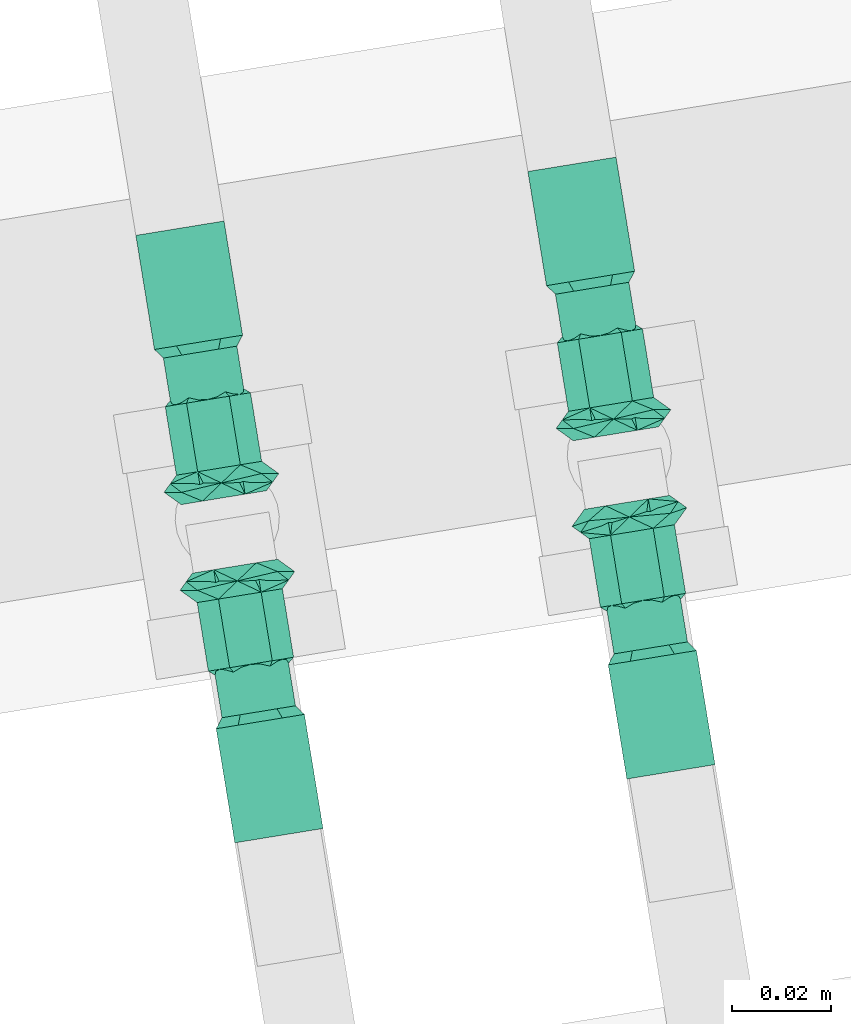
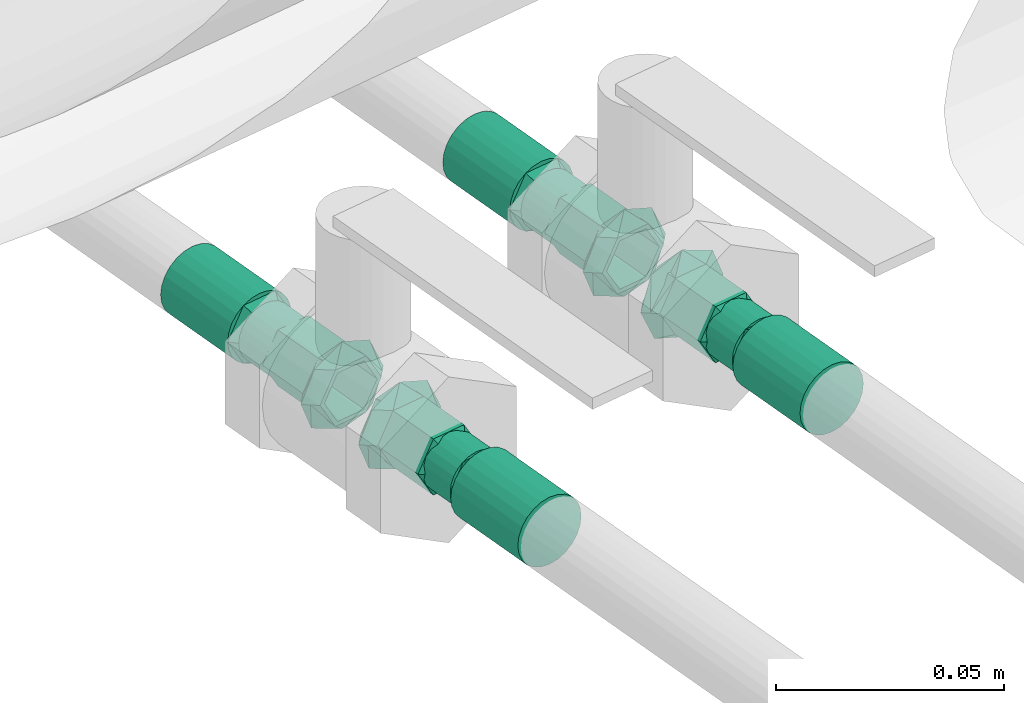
# One storey, part 49 of 56: 4 flow fittings.
"""IFC2X3 building model written with IfcOpenShell, lengths in millimetres."""

from ifc_helpers import new_model, entity, si_unit, converted_unit, derived_unit, direction, frame, origin, origin_with_axes, place, context, subcontext, project, spatial, faceted_brep, source, transform, mapped, material, material_list, type_object, element, save


model = new_model("IFC2X3")

# Units and contexts
model_context = context("Model", 3, precision=0.01, world=origin(), true_north=direction((6.12323399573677e-17, 1.0)))
plan_context = context("Plan", 3, precision=1e-05, world=origin_with_axes())
body_context = subcontext(model_context, "Body", "Model", "MODEL_VIEW")
ifc_project = project(units=[converted_unit("PLANEANGLEUNIT", "DEGREE", entity("IfcPositiveLengthMeasure", 0.0174532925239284), si_unit("PLANEANGLEUNIT", "RADIAN"), dimensions=[0, 0, 0, 0, 0, 0, 0]), si_unit("AREAUNIT", "SQUARE_METRE"), si_unit("LENGTHUNIT", "METRE", prefix="MILLI"), si_unit("MASSUNIT", "GRAM", prefix="KILO"), si_unit("POWERUNIT", "WATT"), si_unit("PRESSUREUNIT", "PASCAL", prefix="KILO"), si_unit("FORCEUNIT", "NEWTON", prefix="KILO"), si_unit("ELECTRICVOLTAGEUNIT", "VOLT"), si_unit("ELECTRICCURRENTUNIT", "AMPERE"), si_unit("THERMODYNAMICTEMPERATUREUNIT", "DEGREE_CELSIUS"), si_unit("TIMEUNIT", "SECOND"), si_unit("VOLUMEUNIT", "CUBIC_METRE"), derived_unit("LINEARVELOCITYUNIT", [(si_unit("LENGTHUNIT", "METRE"), 1), (si_unit("TIMEUNIT", "SECOND"), -1)]), derived_unit("VOLUMETRICFLOWRATEUNIT", [(si_unit("VOLUMEUNIT", "CUBIC_METRE"), 1), (si_unit("TIMEUNIT", "SECOND"), -1)]), derived_unit("THERMALTRANSMITTANCEUNIT", [(si_unit("POWERUNIT", "WATT"), 1), (si_unit("THERMODYNAMICTEMPERATUREUNIT", "KELVIN"), -1), (si_unit("AREAUNIT", "SQUARE_METRE"), -1)]), derived_unit("SOUNDPRESSUREUNIT", [(si_unit("PRESSUREUNIT", "PASCAL"), 1)])], contexts=[model_context, plan_context])

# Site, building, storey
site_placement = place(None, frame((-3.09682673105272e-06, 1.93776733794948e-05, 0.0), z_axis=(0.0, 0.0, 1.0), x_axis=(-0.160806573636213, 0.986985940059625, 0.0)))
site = spatial("IfcSite", under=ifc_project, at=site_placement, Name="Default", CompositionType="ELEMENT")
building_placement = place(site_placement, frame((0.0, 0.0, 0.0), z_axis=(0.0, 0.0, 1.0), x_axis=(1.0, -2.77555756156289e-17, 0.0)))
building = spatial("IfcBuilding", under=site, at=building_placement, Name="Bygning (endres i Project Information)", CompositionType="ELEMENT")
storey_placement = place(building_placement, frame((0.0, 0.0, 51360.0000000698), z_axis=(0.0, 0.0, 1.0), x_axis=(1.0, -2.77555756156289e-17, 0.0)))
storey = spatial("IfcBuildingStorey", under=building, at=storey_placement, Name="H01-Nivå D+0,36", CompositionType="ELEMENT", Elevation=51360.0000000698)

# Flow fittings
ifc_material_1 = material(Name="Geberit_Plastic_Red")
ifc_material_2 = material(Name="Geberit_Mapress_C-Steel")
ifc_material_list = material_list([ifc_material_1, ifc_material_2])
pipe_fitting_type_1 = type_object("IfcPipeFittingType", Name="PRO_103183:DN10-100 / d12-108 - OD", PredefinedType="TRANSITION", material=ifc_material_list)
shared_shape_1 = source(origin(), body_context, "Body", "Brep", [
    faceted_brep([(-14.0, -8.70000000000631, 0.0), (-14.0, -4.35000000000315, -7.53442101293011), (-20.0, -4.35000000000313, -7.53442101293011), (-20.0, -8.7000000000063, 0.0), (-14.0, 4.3500000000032, -7.53442101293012), (-20.0, 4.35000000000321, -7.53442101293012), (-14.0, 8.70000000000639, 0.0), (-20.0, 8.7000000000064, 0.0), (-14.0, 4.35000000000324, 7.5344210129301), (-20.0, 4.35000000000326, 7.5344210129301), (-14.0, -4.3500000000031, 7.53442101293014), (-20.0, -4.35000000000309, 7.53442101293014), (-16.4241214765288, -8.2588311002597, -8.20848959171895), (-17.0, -11.7000000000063, 0.0), (-18.5000000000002, -10.2000000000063, 0.0), (-15.5000000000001, 10.2000000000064, 0.0), (-15.5000000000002, -10.2000000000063, 0.0), (-16.9999999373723, -2.76994209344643e-07, -11.7000000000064), (-18.5000000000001, 10.2000000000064, 0.0), (-17.575878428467, 8.25883091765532, -8.20848980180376), (-17.0, 11.7000000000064, 0.0), (-16.424121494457, 8.25883104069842, 8.20848965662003), (-17.5758784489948, -8.25883086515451, 8.20848984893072), (-16.9999999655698, 1.58419149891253e-07, 11.7000000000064)], [[[0, 1, 2, 3]], [[1, 4, 5, 2]], [[4, 6, 7, 5]], [[6, 8, 9, 7]], [[8, 10, 11, 9]], [[10, 0, 3, 11]], [[12, 13, 14]], [[15, 6, 4]], [[16, 13, 12]], [[17, 14, 2]], [[18, 19, 5]], [[5, 19, 17]], [[14, 17, 12]], [[2, 5, 17]], [[20, 19, 18]], [[0, 16, 1]], [[19, 20, 15]], [[15, 4, 17]], [[16, 12, 1]], [[18, 5, 7]], [[14, 3, 2]], [[15, 17, 19]], [[1, 12, 17]], [[4, 1, 17]], [[21, 20, 18]], [[11, 22, 23]], [[15, 20, 21]], [[23, 18, 9]], [[23, 21, 18]], [[15, 21, 8]], [[22, 16, 23]], [[10, 8, 23]], [[13, 22, 14]], [[14, 22, 11]], [[22, 13, 16]], [[16, 10, 23]], [[8, 21, 23]], [[6, 15, 8]], [[9, 11, 23]], [[14, 11, 3]], [[16, 0, 10]], [[18, 7, 9]]]),
    faceted_brep([(1.0, -7.50000000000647, 0.0), (1.0, -3.75000000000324, -6.49519052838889), (-20.0, -3.75000000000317, -6.49519052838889), (-20.0, -7.5000000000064, 0.0), (1.0, 3.75000000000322, -6.4951905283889), (-20.0, 3.75000000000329, -6.4951905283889), (1.0, 7.50000000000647, 0.0), (-20.0, 7.50000000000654, 0.0), (1.0, 3.75000000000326, 6.49519052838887), (-20.0, 3.75000000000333, 6.49519052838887), (1.0, -3.7500000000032, 6.49519052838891), (-20.0, -3.75000000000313, 6.49519052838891), (-20.0, 4.35000000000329, -7.53442101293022), (-20.0, 8.70000000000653, 0.0), (-20.0, -4.35000000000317, -7.53442101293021), (-20.0, -8.7000000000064, 0.0), (-20.0, -4.35000000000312, 7.53442101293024), (-20.0, 4.35000000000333, 7.5344210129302), (0.0, -4.35000000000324, -7.53442101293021), (0.0, -8.70000000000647, 0.0), (0.0, 4.35000000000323, -7.53442101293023), (0.0, 8.70000000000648, 0.0), (0.0, 4.35000000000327, 7.5344210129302), (0.0, -4.35000000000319, 7.53442101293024)], [[[0, 1, 2, 3]], [[1, 4, 5, 2]], [[4, 6, 7, 5]], [[6, 8, 9, 7]], [[8, 10, 11, 9]], [[10, 0, 3, 11]], [[12, 7, 13]], [[7, 12, 5]], [[2, 5, 12]], [[12, 14, 2]], [[3, 2, 14]], [[14, 15, 3]], [[16, 3, 15]], [[3, 16, 11]], [[17, 11, 16]], [[7, 9, 17]], [[11, 17, 9]], [[17, 13, 7]], [[15, 14, 18, 19]], [[14, 12, 20, 18]], [[12, 13, 21, 20]], [[13, 17, 22, 21]], [[17, 16, 23, 22]], [[16, 15, 19, 23]], [[19, 18, 1, 0]], [[18, 20, 4, 1]], [[20, 21, 6, 4]], [[21, 22, 8, 6]], [[22, 23, 10, 8]], [[23, 19, 0, 10]]]),
    faceted_brep([(35.0, 4.49999999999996, -7.79422863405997), (35.0, 6.36396103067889, -6.36396103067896), (35.0, 7.79422863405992, -4.50000000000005), (35.0, 8.6933324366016, -2.32937140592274), (35.0, 9.0, 0.0), (35.0, 8.69333243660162, 2.32937140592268), (35.0, 7.79422863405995, 4.5), (35.0, 6.36396103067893, 6.36396103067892), (35.0, 4.50000000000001, 7.79422863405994), (35.0, 2.3293714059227, 8.69333243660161), (35.0, 0.0, 9.0), (35.0, -2.32937140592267, 8.69333243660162), (35.0, -4.49999999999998, 7.79422863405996), (35.0, -6.36396103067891, 6.36396103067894), (35.0, -7.79422863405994, 4.50000000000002), (35.0, -8.69333243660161, 2.32937140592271), (35.0, -9.0, 0.0), (35.0, -8.69333243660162, -2.32937140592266), (35.0, -7.79422863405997, -4.49999999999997), (35.0, -6.36396103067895, -6.3639610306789), (35.0, -4.50000000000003, -7.79422863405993), (35.0, -2.32937140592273, -8.6933324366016), (35.0, 0.0, -9.0), (35.0, 2.32937140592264, -8.69333243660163), (11.7058823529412, 0.0, 9.0), (11.7058823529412, 2.3293714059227, 8.69333243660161), (11.7058823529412, 4.50000000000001, 7.79422863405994), (11.7058823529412, 6.36396103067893, 6.36396103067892), (11.7058823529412, 7.79422863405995, 4.5), (11.7058823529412, 8.69333243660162, 2.32937140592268), (11.7058823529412, 9.0, 0.0), (11.7058823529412, 8.6933324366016, -2.32937140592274), (11.7058823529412, 7.79422863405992, -4.50000000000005), (11.7058823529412, 6.36396103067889, -6.36396103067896), (11.7058823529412, 4.49999999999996, -7.79422863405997), (11.7058823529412, 2.32937140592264, -8.69333243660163), (11.7058823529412, 0.0, -9.0), (11.7058823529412, -2.32937140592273, -8.6933324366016), (11.7058823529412, -4.50000000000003, -7.79422863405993), (11.7058823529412, -6.36396103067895, -6.3639610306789), (11.7058823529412, -7.79422863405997, -4.49999999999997), (11.7058823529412, -8.69333243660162, -2.32937140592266), (11.7058823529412, -9.0, 0.0), (11.7058823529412, -8.69333243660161, 2.32937140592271), (11.7058823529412, -7.79422863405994, 4.50000000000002), (11.7058823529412, -6.36396103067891, 6.36396103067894), (11.7058823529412, -4.49999999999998, 7.79422863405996), (11.7058823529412, -2.32937140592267, 8.69333243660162)], [[[0, 1, 2, 3, 4, 5, 6, 7, 8, 9, 10, 11, 12, 13, 14, 15, 16, 17, 18, 19, 20, 21, 22, 23]], [[24, 25, 26, 27, 28, 29, 30, 31, 32, 33, 34, 35, 36, 37, 38, 39, 40, 41, 42, 43, 44, 45, 46, 47]], [[41, 17, 16, 42]], [[40, 18, 17, 41]], [[20, 19, 39, 38]], [[40, 39, 19, 18]], [[21, 20, 38, 37]], [[22, 21, 37, 36]], [[35, 23, 22, 36]], [[34, 0, 23, 35]], [[2, 1, 33, 32]], [[34, 33, 1, 0]], [[3, 2, 32, 31]], [[4, 3, 31, 30]], [[29, 5, 4, 30]], [[28, 6, 5, 29]], [[8, 7, 27, 26]], [[28, 27, 7, 6]], [[9, 8, 26, 25]], [[10, 9, 25, 24]], [[47, 11, 10, 24]], [[46, 12, 11, 47]], [[14, 13, 45, 44]], [[46, 45, 13, 12]], [[15, 14, 44, 43]], [[16, 15, 43, 42]]]),
    faceted_brep([(11.7058823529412, 9.0, 0.0), (11.7058823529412, 4.50000000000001, 7.79422863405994), (11.7058823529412, -4.49999999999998, 7.79422863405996), (11.7058823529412, -9.0, 0.0), (11.7058823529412, -4.50000000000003, -7.79422863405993), (11.7058823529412, 4.49999999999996, -7.79422863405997), (9.70588235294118, 3.75000000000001, 6.49519052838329), (9.70588235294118, 7.5, 0.0), (9.70588235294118, 3.74999999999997, -6.49519052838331), (9.70588235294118, -3.75000000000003, -6.49519052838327), (9.70588235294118, -7.5, 0.0), (9.70588235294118, -3.74999999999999, 6.4951905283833)], [[[0, 1, 2, 3, 4, 5]], [[6, 7, 8, 9, 10, 11]], [[10, 9, 4, 3]], [[9, 8, 5, 4]], [[8, 7, 0, 5]], [[7, 6, 1, 0]], [[6, 11, 2, 1]], [[11, 10, 3, 2]]]),
    faceted_brep([(9.70588235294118, 3.74999999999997, -6.49519052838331), (9.70588235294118, 5.30330085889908, -5.30330085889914), (9.70588235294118, 6.49519052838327, -3.75000000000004), (9.70588235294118, 7.244443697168, -1.94114283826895), (9.70588235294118, 7.5, 0.0), (9.70588235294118, 7.24444369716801, 1.9411428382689), (9.70588235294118, 6.49519052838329, 3.75), (9.70588235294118, 5.30330085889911, 5.3033008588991), (9.70588235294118, 3.75000000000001, 6.49519052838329), (9.70588235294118, 1.94114283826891, 7.24444369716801), (9.70588235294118, 0.0, 7.5), (9.70588235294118, -1.94114283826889, 7.24444369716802), (9.70588235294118, -3.74999999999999, 6.4951905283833), (9.70588235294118, -5.3033008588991, 5.30330085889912), (9.70588235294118, -6.49519052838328, 3.75000000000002), (9.70588235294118, -7.24444369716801, 1.94114283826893), (9.70588235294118, -7.5, 0.0), (9.70588235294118, -7.24444369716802, -1.94114283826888), (9.70588235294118, -6.4951905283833, -3.74999999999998), (9.70588235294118, -5.30330085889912, -5.30330085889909), (9.70588235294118, -3.75000000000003, -6.49519052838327), (9.70588235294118, -1.94114283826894, -7.244443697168), (9.70588235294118, 0.0, -7.5), (9.70588235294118, 1.94114283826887, -7.24444369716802), (0.0, 5.30330085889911, 5.3033008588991), (0.0, 6.49519052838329, 3.75), (0.0, 7.24444369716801, 1.9411428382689), (0.0, 7.5, 0.0), (0.0, 7.244443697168, -1.94114283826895), (0.0, 6.49519052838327, -3.75000000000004), (0.0, 5.30330085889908, -5.30330085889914), (0.0, 3.74999999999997, -6.49519052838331), (0.0, 1.94114283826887, -7.24444369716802), (0.0, 0.0, -7.5), (0.0, -1.94114283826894, -7.244443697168), (0.0, -3.75000000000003, -6.49519052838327), (0.0, -5.30330085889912, -5.30330085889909), (0.0, -6.4951905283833, -3.74999999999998), (0.0, -7.24444369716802, -1.94114283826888), (0.0, -7.5, 0.0), (0.0, -7.24444369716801, 1.94114283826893), (0.0, -6.49519052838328, 3.75000000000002), (0.0, -5.3033008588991, 5.30330085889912), (0.0, -3.74999999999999, 6.4951905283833), (0.0, -1.94114283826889, 7.24444369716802), (0.0, 0.0, 7.5), (0.0, 1.94114283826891, 7.24444369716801), (0.0, 3.75000000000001, 6.49519052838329)], [[[0, 1, 2, 3, 4, 5, 6, 7, 8, 9, 10, 11, 12, 13, 14, 15, 16, 17, 18, 19, 20, 21, 22, 23]], [[24, 25, 26, 27, 28, 29, 30, 31, 32, 33, 34, 35, 36, 37, 38, 39, 40, 41, 42, 43, 44, 45, 46, 47]], [[38, 17, 16, 39]], [[37, 18, 17, 38]], [[20, 19, 36, 35]], [[37, 36, 19, 18]], [[21, 20, 35, 34]], [[22, 21, 34, 33]], [[32, 23, 22, 33]], [[31, 0, 23, 32]], [[2, 1, 30, 29]], [[31, 30, 1, 0]], [[3, 2, 29, 28]], [[4, 3, 28, 27]], [[26, 5, 4, 27]], [[25, 6, 5, 26]], [[8, 7, 24, 47]], [[25, 24, 7, 6]], [[9, 8, 47, 46]], [[10, 9, 46, 45]], [[44, 11, 10, 45]], [[43, 12, 11, 44]], [[14, 13, 42, 41]], [[43, 42, 13, 12]], [[15, 14, 41, 40]], [[16, 15, 40, 39]]]),
])
flow_fitting_placement = place(storey_placement, frame((1011829.99429018, -391921.651949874, 3299.99999997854), z_axis=(0.0, 0.0, 1.0), x_axis=(-1.0, 2.77555756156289e-17, 0.0)))
element("IfcFlowFitting", 1, at=flow_fitting_placement, inside=storey, type_object=pipe_fitting_type_1, material=ifc_material_list, Name="PRO_103183:DN10-100 / d12-108 - OD", ObjectType="PRO_103183:DN10-100 / d12-108 - OD", context=body_context, shape_type="MappedRepresentation", body=[
    mapped(shared_shape_1, transform((0.0, 0.0, 0.0), scale=1.0)),
])
pipe_fitting_type_2 = type_object("IfcPipeFittingType", Name="PRO_103183:DN10-100 / d12-108 - OD", PredefinedType="TRANSITION", material=ifc_material_list)
shared_shape_2 = source(origin(), body_context, "Body", "Brep", [
    faceted_brep([(-20.0, 8.7000000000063, 0.0), (-20.0, 4.35000000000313, -7.53442101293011), (-14.0, 4.35000000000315, -7.53442101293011), (-14.0, 8.70000000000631, 0.0), (-20.0, -4.35000000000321, -7.53442101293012), (-14.0, -4.3500000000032, -7.53442101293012), (-20.0, -8.7000000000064, 0.0), (-14.0, -8.70000000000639, 0.0), (-20.0, -4.35000000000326, 7.5344210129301), (-14.0, -4.35000000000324, 7.5344210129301), (-20.0, 4.35000000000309, 7.53442101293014), (-14.0, 4.3500000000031, 7.53442101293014), (-18.5000000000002, 10.2000000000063, 0.0), (-17.0, 11.7000000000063, 0.0), (-16.4241214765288, 8.2588311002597, -8.20848959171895), (-15.5000000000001, -10.2000000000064, 0.0), (-15.5000000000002, 10.2000000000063, 0.0), (-16.9999999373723, 2.76994209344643e-07, -11.7000000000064), (-17.575878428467, -8.25883091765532, -8.20848980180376), (-18.5000000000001, -10.2000000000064, 0.0), (-17.0, -11.7000000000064, 0.0), (-16.424121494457, -8.25883104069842, 8.20848965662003), (-16.9999999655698, -1.58419149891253e-07, 11.7000000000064), (-17.5758784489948, 8.25883086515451, 8.20848984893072)], [[[0, 1, 2, 3]], [[1, 4, 5, 2]], [[4, 6, 7, 5]], [[6, 8, 9, 7]], [[8, 10, 11, 9]], [[10, 0, 3, 11]], [[12, 13, 14]], [[5, 7, 15]], [[14, 13, 16]], [[1, 12, 17]], [[4, 18, 19]], [[17, 18, 4]], [[14, 17, 12]], [[17, 4, 1]], [[19, 18, 20]], [[2, 16, 3]], [[15, 20, 18]], [[17, 5, 15]], [[2, 14, 16]], [[6, 4, 19]], [[1, 0, 12]], [[18, 17, 15]], [[17, 14, 2]], [[17, 2, 5]], [[19, 20, 21]], [[22, 23, 10]], [[21, 20, 15]], [[8, 19, 22]], [[19, 21, 22]], [[9, 21, 15]], [[22, 16, 23]], [[22, 9, 11]], [[12, 23, 13]], [[10, 23, 12]], [[16, 13, 23]], [[22, 11, 16]], [[22, 21, 9]], [[9, 15, 7]], [[22, 10, 8]], [[0, 10, 12]], [[11, 3, 16]], [[8, 6, 19]]]),
    faceted_brep([(-20.0, 7.5000000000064, 0.0), (-20.0, 3.75000000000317, -6.49519052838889), (1.0, 3.75000000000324, -6.49519052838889), (1.0, 7.50000000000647, 0.0), (-20.0, -3.75000000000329, -6.4951905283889), (1.0, -3.75000000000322, -6.4951905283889), (-20.0, -7.50000000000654, 0.0), (1.0, -7.50000000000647, 0.0), (-20.0, -3.75000000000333, 6.49519052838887), (1.0, -3.75000000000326, 6.49519052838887), (-20.0, 3.75000000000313, 6.49519052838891), (1.0, 3.7500000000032, 6.49519052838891), (-20.0, -8.70000000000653, 0.0), (-20.0, -4.35000000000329, -7.53442101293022), (-20.0, -4.35000000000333, 7.5344210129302), (-20.0, 4.35000000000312, 7.53442101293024), (-20.0, 8.7000000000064, 0.0), (-20.0, 4.35000000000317, -7.53442101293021), (0.0, 8.70000000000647, 0.0), (0.0, 4.35000000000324, -7.53442101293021), (0.0, -4.35000000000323, -7.53442101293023), (0.0, -8.70000000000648, 0.0), (0.0, -4.35000000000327, 7.5344210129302), (0.0, 4.35000000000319, 7.53442101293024)], [[[0, 1, 2, 3]], [[1, 4, 5, 2]], [[4, 6, 7, 5]], [[6, 8, 9, 7]], [[8, 10, 11, 9]], [[10, 0, 3, 11]], [[12, 6, 13]], [[6, 12, 14]], [[14, 8, 6]], [[8, 14, 10]], [[15, 10, 14]], [[10, 15, 0]], [[16, 0, 15]], [[0, 16, 17]], [[1, 17, 13]], [[17, 1, 0]], [[4, 13, 6]], [[13, 4, 1]], [[18, 19, 17, 16]], [[19, 20, 13, 17]], [[20, 21, 12, 13]], [[21, 22, 14, 12]], [[22, 23, 15, 14]], [[23, 18, 16, 15]], [[2, 19, 18, 3]], [[2, 5, 20, 19]], [[7, 21, 20, 5]], [[9, 22, 21, 7]], [[9, 11, 23, 22]], [[3, 18, 23, 11]]]),
    faceted_brep([(35.0, -2.32937140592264, -8.69333243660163), (35.0, 0.0, -9.0), (35.0, 2.32937140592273, -8.6933324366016), (35.0, 4.50000000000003, -7.79422863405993), (35.0, 6.36396103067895, -6.3639610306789), (35.0, 7.79422863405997, -4.49999999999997), (35.0, 8.69333243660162, -2.32937140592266), (35.0, 9.0, 0.0), (35.0, 8.69333243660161, 2.32937140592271), (35.0, 7.79422863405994, 4.50000000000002), (35.0, 6.36396103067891, 6.36396103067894), (35.0, 4.49999999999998, 7.79422863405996), (35.0, 2.32937140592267, 8.69333243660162), (35.0, 0.0, 9.0), (35.0, -2.3293714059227, 8.69333243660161), (35.0, -4.50000000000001, 7.79422863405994), (35.0, -6.36396103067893, 6.36396103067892), (35.0, -7.79422863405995, 4.5), (35.0, -8.69333243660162, 2.32937140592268), (35.0, -9.0, 0.0), (35.0, -8.6933324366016, -2.32937140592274), (35.0, -7.79422863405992, -4.50000000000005), (35.0, -6.36396103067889, -6.36396103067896), (35.0, -4.49999999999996, -7.79422863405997), (11.7058823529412, -4.50000000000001, 7.79422863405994), (11.7058823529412, -2.3293714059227, 8.69333243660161), (11.7058823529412, 0.0, 9.0), (11.7058823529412, 2.32937140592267, 8.69333243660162), (11.7058823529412, 4.49999999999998, 7.79422863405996), (11.7058823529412, 6.36396103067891, 6.36396103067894), (11.7058823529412, 7.79422863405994, 4.50000000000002), (11.7058823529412, 8.69333243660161, 2.32937140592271), (11.7058823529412, 9.0, 0.0), (11.7058823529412, 8.69333243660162, -2.32937140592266), (11.7058823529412, 7.79422863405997, -4.49999999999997), (11.7058823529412, 6.36396103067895, -6.3639610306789), (11.7058823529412, 4.50000000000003, -7.79422863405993), (11.7058823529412, 2.32937140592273, -8.6933324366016), (11.7058823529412, 0.0, -9.0), (11.7058823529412, -2.32937140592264, -8.69333243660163), (11.7058823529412, -4.49999999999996, -7.79422863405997), (11.7058823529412, -6.36396103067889, -6.36396103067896), (11.7058823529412, -7.79422863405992, -4.50000000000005), (11.7058823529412, -8.6933324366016, -2.32937140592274), (11.7058823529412, -9.0, 0.0), (11.7058823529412, -8.69333243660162, 2.32937140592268), (11.7058823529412, -7.79422863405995, 4.5), (11.7058823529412, -6.36396103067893, 6.36396103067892)], [[[0, 1, 2, 3, 4, 5, 6, 7, 8, 9, 10, 11, 12, 13, 14, 15, 16, 17, 18, 19, 20, 21, 22, 23]], [[24, 25, 26, 27, 28, 29, 30, 31, 32, 33, 34, 35, 36, 37, 38, 39, 40, 41, 42, 43, 44, 45, 46, 47]], [[32, 7, 6, 33]], [[33, 6, 5, 34]], [[36, 35, 4, 3]], [[4, 35, 34, 5]], [[37, 36, 3, 2]], [[37, 2, 1, 38]], [[38, 1, 0, 39]], [[39, 0, 23, 40]], [[42, 41, 22, 21]], [[22, 41, 40, 23]], [[43, 42, 21, 20]], [[43, 20, 19, 44]], [[44, 19, 18, 45]], [[45, 18, 17, 46]], [[24, 47, 16, 15]], [[16, 47, 46, 17]], [[25, 24, 15, 14]], [[25, 14, 13, 26]], [[26, 13, 12, 27]], [[27, 12, 11, 28]], [[30, 29, 10, 9]], [[10, 29, 28, 11]], [[31, 30, 9, 8]], [[31, 8, 7, 32]]]),
    faceted_brep([(11.7058823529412, 4.49999999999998, 7.79422863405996), (11.7058823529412, -4.50000000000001, 7.79422863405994), (11.7058823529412, -9.0, 0.0), (11.7058823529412, -4.49999999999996, -7.79422863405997), (11.7058823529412, 4.50000000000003, -7.79422863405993), (11.7058823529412, 9.0, 0.0), (9.70588235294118, 7.5, 0.0), (9.70588235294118, 3.75000000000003, -6.49519052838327), (9.70588235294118, -3.74999999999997, -6.49519052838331), (9.70588235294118, -7.5, 0.0), (9.70588235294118, -3.75000000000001, 6.49519052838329), (9.70588235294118, 3.74999999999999, 6.4951905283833)], [[[0, 1, 2, 3, 4, 5]], [[6, 7, 8, 9, 10, 11]], [[4, 7, 6, 5]], [[4, 3, 8, 7]], [[2, 9, 8, 3]], [[1, 10, 9, 2]], [[1, 0, 11, 10]], [[5, 6, 11, 0]]]),
    faceted_brep([(9.70588235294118, -3.74999999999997, -6.49519052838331), (9.70588235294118, -1.94114283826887, -7.24444369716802), (9.70588235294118, 0.0, -7.5), (9.70588235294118, 1.94114283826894, -7.244443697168), (9.70588235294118, 3.75000000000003, -6.49519052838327), (9.70588235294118, 5.30330085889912, -5.30330085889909), (9.70588235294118, 6.4951905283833, -3.74999999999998), (9.70588235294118, 7.24444369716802, -1.94114283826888), (9.70588235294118, 7.5, 0.0), (9.70588235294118, 7.24444369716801, 1.94114283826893), (9.70588235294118, 6.49519052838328, 3.75000000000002), (9.70588235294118, 5.3033008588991, 5.30330085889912), (9.70588235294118, 3.74999999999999, 6.4951905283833), (9.70588235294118, 1.94114283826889, 7.24444369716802), (9.70588235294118, 0.0, 7.5), (9.70588235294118, -1.94114283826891, 7.24444369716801), (9.70588235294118, -3.75000000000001, 6.49519052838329), (9.70588235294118, -5.30330085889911, 5.3033008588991), (9.70588235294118, -6.49519052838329, 3.75), (9.70588235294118, -7.24444369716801, 1.9411428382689), (9.70588235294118, -7.5, 0.0), (9.70588235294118, -7.244443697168, -1.94114283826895), (9.70588235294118, -6.49519052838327, -3.75000000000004), (9.70588235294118, -5.30330085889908, -5.30330085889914), (0.0, -1.94114283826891, 7.24444369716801), (0.0, 0.0, 7.5), (0.0, 1.94114283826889, 7.24444369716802), (0.0, 3.74999999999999, 6.4951905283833), (0.0, 5.3033008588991, 5.30330085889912), (0.0, 6.49519052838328, 3.75000000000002), (0.0, 7.24444369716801, 1.94114283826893), (0.0, 7.5, 0.0), (0.0, 7.24444369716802, -1.94114283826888), (0.0, 6.4951905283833, -3.74999999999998), (0.0, 5.30330085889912, -5.30330085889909), (0.0, 3.75000000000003, -6.49519052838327), (0.0, 1.94114283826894, -7.244443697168), (0.0, 0.0, -7.5), (0.0, -1.94114283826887, -7.24444369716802), (0.0, -3.74999999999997, -6.49519052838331), (0.0, -5.30330085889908, -5.30330085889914), (0.0, -6.49519052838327, -3.75000000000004), (0.0, -7.244443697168, -1.94114283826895), (0.0, -7.5, 0.0), (0.0, -7.24444369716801, 1.9411428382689), (0.0, -6.49519052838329, 3.75), (0.0, -5.30330085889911, 5.3033008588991), (0.0, -3.75000000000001, 6.49519052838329)], [[[0, 1, 2, 3, 4, 5, 6, 7, 8, 9, 10, 11, 12, 13, 14, 15, 16, 17, 18, 19, 20, 21, 22, 23]], [[24, 25, 26, 27, 28, 29, 30, 31, 32, 33, 34, 35, 36, 37, 38, 39, 40, 41, 42, 43, 44, 45, 46, 47]], [[31, 8, 7, 32]], [[32, 7, 6, 33]], [[35, 34, 5, 4]], [[5, 34, 33, 6]], [[36, 35, 4, 3]], [[36, 3, 2, 37]], [[37, 2, 1, 38]], [[38, 1, 0, 39]], [[41, 40, 23, 22]], [[23, 40, 39, 0]], [[42, 41, 22, 21]], [[42, 21, 20, 43]], [[43, 20, 19, 44]], [[44, 19, 18, 45]], [[47, 46, 17, 16]], [[17, 46, 45, 18]], [[24, 47, 16, 15]], [[24, 15, 14, 25]], [[25, 14, 13, 26]], [[26, 13, 12, 27]], [[29, 28, 11, 10]], [[11, 28, 27, 12]], [[30, 29, 10, 9]], [[30, 9, 8, 31]]]),
])
for number, where, z_axis, x_axis in (
    (2, (1011829.99429018, -391841.6268451, 3299.99999997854), (0.0, 0.0, 1.0), (-1.0, 2.77555756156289e-17, 0.0)),
    (3, (1011883.99429018, -391841.6268451, 3299.99999997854), (0.0, 0.0, 1.0), (1.0, -2.77555756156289e-17, 0.0)),
    (4, (1011883.99429018, -391921.651949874, 3299.99999997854), (0.0, 0.0, 1.0), (1.0, -2.77555756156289e-17, 0.0)),
):
    element("IfcFlowFitting", number, at=place(storey_placement, frame(where, z_axis=z_axis, x_axis=x_axis)), inside=storey, type_object=pipe_fitting_type_2, material=ifc_material_list, Name="PRO_103183:DN10-100 / d12-108 - OD", ObjectType="PRO_103183:DN10-100 / d12-108 - OD", context=body_context, shape_type="MappedRepresentation", body=[
        mapped(shared_shape_2, transform((0.0, 0.0, 0.0), scale=1.0)),
    ])

save(model, "model.ifc")
